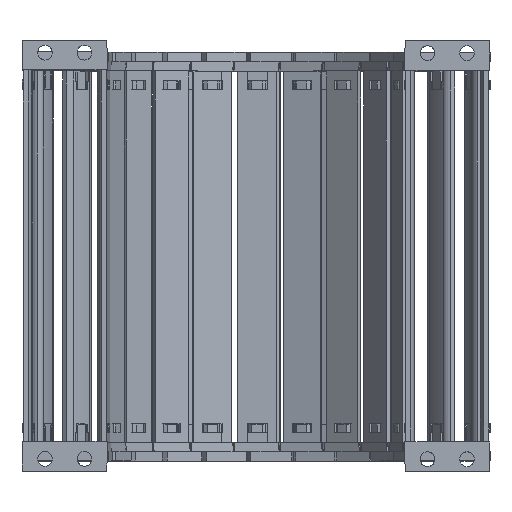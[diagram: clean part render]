
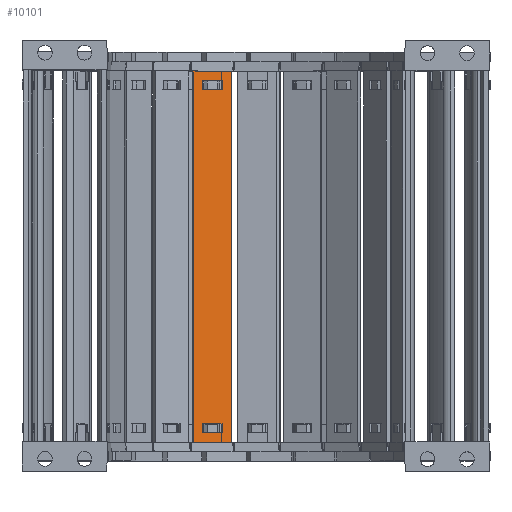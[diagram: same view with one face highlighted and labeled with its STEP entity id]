
A CAD part, top view. The second image highlights one B-rep face of the part: STEP entity #10101.
In plain terms, the highlighted planar face has unit normal (0.259, 0, 0.966).
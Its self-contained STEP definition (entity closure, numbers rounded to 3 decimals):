
#4663=FACE_BOUND('',#23383,.T.);
#4664=FACE_BOUND('',#23384,.T.);
#4665=FACE_BOUND('',#23385,.T.);
#5651=PLANE('',#121248);
#10101=ADVANCED_FACE('',(#4663,#4664,#4665),#5651,.F.);
#23383=EDGE_LOOP('',(#38223,#38224,#38225,#38226));
#23384=EDGE_LOOP('',(#38227,#38228,#38229,#38230));
#23385=EDGE_LOOP('',(#38231,#38232,#38233,#38234));
#38223=ORIENTED_EDGE('',*,*,#81626,.F.);
#38224=ORIENTED_EDGE('',*,*,#81597,.F.);
#38225=ORIENTED_EDGE('',*,*,#81631,.F.);
#38226=ORIENTED_EDGE('',*,*,#81608,.F.);
#38227=ORIENTED_EDGE('',*,*,#81643,.F.);
#38228=ORIENTED_EDGE('',*,*,#81636,.F.);
#38229=ORIENTED_EDGE('',*,*,#81675,.F.);
#38230=ORIENTED_EDGE('',*,*,#81650,.T.);
#38231=ORIENTED_EDGE('',*,*,#81673,.T.);
#38232=ORIENTED_EDGE('',*,*,#81676,.F.);
#38233=ORIENTED_EDGE('',*,*,#81677,.F.);
#38234=ORIENTED_EDGE('',*,*,#81678,.F.);
#69013=VERTEX_POINT('',#171403);
#69014=VERTEX_POINT('',#171405);
#69020=VERTEX_POINT('',#171420);
#69023=VERTEX_POINT('',#171426);
#69040=VERTEX_POINT('',#171483);
#69041=VERTEX_POINT('',#171484);
#69047=VERTEX_POINT('',#171498);
#69050=VERTEX_POINT('',#171506);
#69063=VERTEX_POINT('',#171553);
#69064=VERTEX_POINT('',#171555);
#69065=VERTEX_POINT('',#171560);
#69066=VERTEX_POINT('',#171562);
#81597=EDGE_CURVE('',#69013,#69014,#98089,.T.);
#81608=EDGE_CURVE('',#69023,#69020,#98100,.T.);
#81626=EDGE_CURVE('',#69014,#69023,#98115,.T.);
#81631=EDGE_CURVE('',#69020,#69013,#98120,.T.);
#81636=EDGE_CURVE('',#69040,#69041,#98125,.T.);
#81643=EDGE_CURVE('',#69041,#69047,#98132,.T.);
#81650=EDGE_CURVE('',#69050,#69047,#98139,.T.);
#81673=EDGE_CURVE('',#69064,#69063,#98153,.T.);
#81675=EDGE_CURVE('',#69050,#69040,#98155,.T.);
#81676=EDGE_CURVE('',#69065,#69063,#98156,.T.);
#81677=EDGE_CURVE('',#69066,#69065,#98157,.T.);
#81678=EDGE_CURVE('',#69064,#69066,#98158,.T.);
#98089=LINE('',#171404,#109721);
#98100=LINE('',#171427,#109732);
#98115=LINE('',#171462,#109747);
#98120=LINE('',#171471,#109752);
#98125=LINE('',#171482,#109757);
#98132=LINE('',#171497,#109764);
#98139=LINE('',#171510,#109771);
#98153=LINE('',#171554,#109785);
#98155=LINE('',#171558,#109787);
#98156=LINE('',#171559,#109788);
#98157=LINE('',#171561,#109789);
#98158=LINE('',#171563,#109790);
#109721=VECTOR('',#135874,1.);
#109732=VECTOR('',#135889,1.);
#109747=VECTOR('',#135924,1.);
#109752=VECTOR('',#135933,1.);
#109757=VECTOR('',#135942,1.);
#109764=VECTOR('',#135951,1.);
#109771=VECTOR('',#135960,1.);
#109785=VECTOR('',#136010,1.);
#109787=VECTOR('',#136014,1.);
#109788=VECTOR('',#136015,1.);
#109789=VECTOR('',#136016,1.);
#109790=VECTOR('',#136017,1.);
#121248=AXIS2_PLACEMENT_3D('',#171564,#136018,#136019);
#135874=DIRECTION('',(0.966,0.,-0.259));
#135889=DIRECTION('',(-0.966,0.,0.259));
#135924=DIRECTION('',(0.,1.,0.));
#135933=DIRECTION('',(0.,-1.,0.));
#135942=DIRECTION('',(-0.966,0.,0.259));
#135951=DIRECTION('',(0.,-1.,0.));
#135960=DIRECTION('',(-0.966,0.,0.259));
#136010=DIRECTION('',(0.,-1.,0.));
#136014=DIRECTION('',(0.,1.,0.));
#136015=DIRECTION('',(-0.966,0.,0.259));
#136016=DIRECTION('',(0.,-1.,0.));
#136017=DIRECTION('',(0.966,0.,-0.259));
#136018=DIRECTION('',(-0.259,0.,-0.966));
#136019=DIRECTION('',(-0.966,0.,0.259));
#171403=CARTESIAN_POINT('',(-99.114,-146.53,-76.948));
#171404=CARTESIAN_POINT('',(-99.114,-146.53,-76.948));
#171405=CARTESIAN_POINT('',(-91.242,-146.53,-79.058));
#171420=CARTESIAN_POINT('',(-99.114,-142.882,-76.948));
#171426=CARTESIAN_POINT('',(-91.242,-142.882,-79.058));
#171427=CARTESIAN_POINT('',(-91.242,-142.882,-79.058));
#171462=CARTESIAN_POINT('',(-91.242,-177.96,-79.058));
#171471=CARTESIAN_POINT('',(-99.114,-174.36,-76.948));
#171482=CARTESIAN_POINT('',(-91.242,-3.97,-79.058));
#171483=CARTESIAN_POINT('',(-91.242,-3.97,-79.058));
#171484=CARTESIAN_POINT('',(-99.114,-3.97,-76.948));
#171497=CARTESIAN_POINT('',(-99.114,-3.97,-76.948));
#171498=CARTESIAN_POINT('',(-99.114,-7.618,-76.948));
#171506=CARTESIAN_POINT('',(-91.242,-7.618,-79.058));
#171510=CARTESIAN_POINT('',(-91.242,-7.618,-79.058));
#171553=CARTESIAN_POINT('',(-102.809,-150.5,-75.959));
#171554=CARTESIAN_POINT('',(-102.809,0.,-75.959));
#171555=CARTESIAN_POINT('',(-102.809,0.,-75.959));
#171558=CARTESIAN_POINT('',(-91.242,-7.618,-79.058));
#171559=CARTESIAN_POINT('',(-87.547,-150.5,-80.048));
#171560=CARTESIAN_POINT('',(-87.547,-150.5,-80.048));
#171561=CARTESIAN_POINT('',(-87.547,0.,-80.048));
#171562=CARTESIAN_POINT('',(-87.547,0.,-80.048));
#171563=CARTESIAN_POINT('',(-102.809,0.,-75.959));
#171564=CARTESIAN_POINT('',(-85.46,31.74,-80.607));
